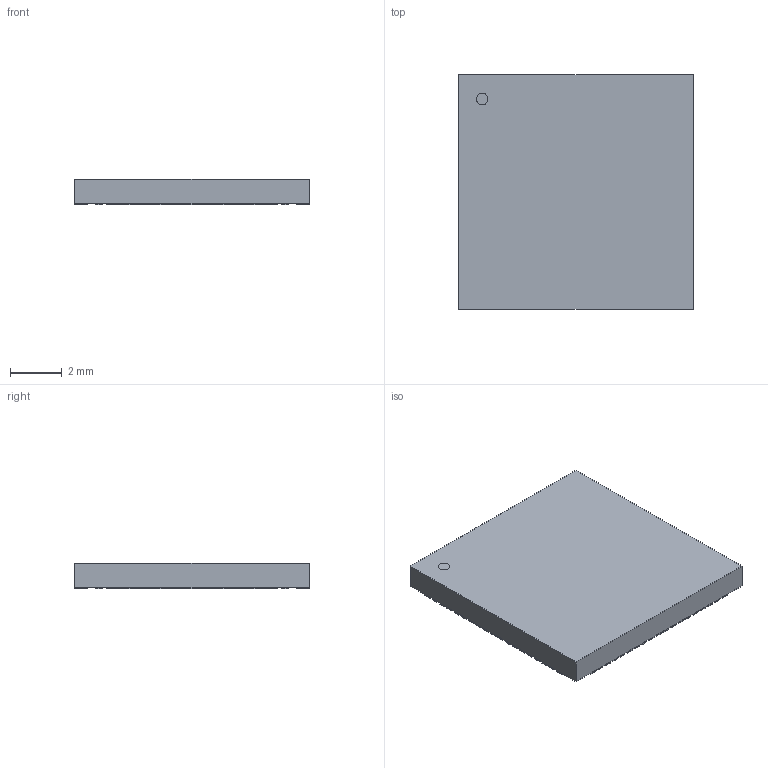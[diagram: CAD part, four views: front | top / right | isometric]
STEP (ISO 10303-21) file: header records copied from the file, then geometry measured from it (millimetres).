
FILE_DESCRIPTION(('STEP AP214'),'1');
FILE_NAME('QFN76_FTD','2025-03-24T06:04:46',(''),(''),'','','');
FILE_SCHEMA(('AUTOMOTIVE_DESIGN'));
Length unit declared in the file: millimetre
Products named in the file (1): product
Bounding box: 9.09 x 9.09 x 0.99 mm (x, y, z)
Volume: 80.3 mm3; surface area: 306.3 mm2
Topology: 79 solids, 79 shells, 471 faces, 939 edges, 626 vertices
Faces by surface type: plane 470, cylinder 1
Full cylindrical faces by diameter (mm): 0.455 x1
Entity records: 11461 total; most frequent: DIRECTION 1886, ORIENTED_EDGE 1876, CARTESIAN_POINT 1101, EDGE_CURVE 938, LINE 936, VECTOR 936, VERTEX_POINT 626, AXIS2_PLACEMENT_3D 475
